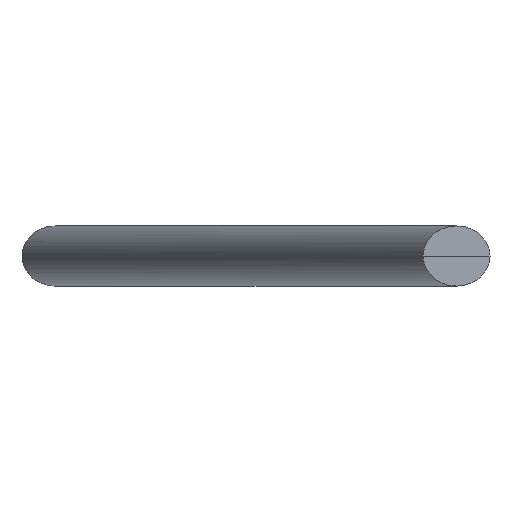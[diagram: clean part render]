
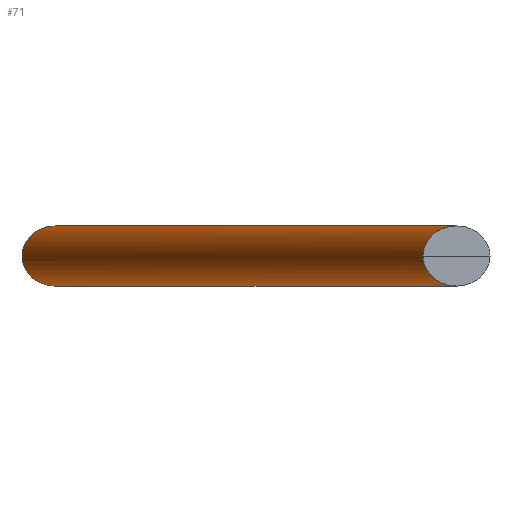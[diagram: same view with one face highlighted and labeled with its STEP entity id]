
A CAD part, front view. The second image highlights one B-rep face of the part: STEP entity #71.
In plain terms, the highlighted cylindrical face has radius 15 mm (diameter 30 mm), a full revolution.
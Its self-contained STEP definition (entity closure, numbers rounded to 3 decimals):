
#14=FACE_BOUND('',#26,.T.);
#15=CYLINDRICAL_SURFACE('',#94,15.);
#20=FACE_OUTER_BOUND('',#25,.T.);
#25=EDGE_LOOP('',(#53,#54));
#26=EDGE_LOOP('',(#55,#56));
#27=ELLIPSE('',#87,16.689,15.);
#28=ELLIPSE('',#89,16.689,15.);
#29=ELLIPSE('',#91,16.689,15.);
#30=ELLIPSE('',#93,16.689,15.);
#35=VERTEX_POINT('',#119);
#36=VERTEX_POINT('',#120);
#37=VERTEX_POINT('',#124);
#38=VERTEX_POINT('',#125);
#40=EDGE_CURVE('',#36,#35,#27,.T.);
#42=EDGE_CURVE('',#38,#37,#28,.T.);
#43=EDGE_CURVE('',#35,#36,#29,.T.);
#44=EDGE_CURVE('',#37,#38,#30,.T.);
#53=ORIENTED_EDGE('',*,*,#43,.T.);
#54=ORIENTED_EDGE('',*,*,#40,.T.);
#55=ORIENTED_EDGE('',*,*,#42,.T.);
#56=ORIENTED_EDGE('',*,*,#44,.T.);
#71=ADVANCED_FACE('',(#20,#14),#15,.T.);
#87=AXIS2_PLACEMENT_3D('',#122,#100,#101);
#89=AXIS2_PLACEMENT_3D('',#127,#105,#106);
#91=AXIS2_PLACEMENT_3D('',#129,#109,#110);
#93=AXIS2_PLACEMENT_3D('',#131,#113,#114);
#94=AXIS2_PLACEMENT_3D('',#132,#115,#116);
#100=DIRECTION('center_axis',(0.,1.,0.));
#101=DIRECTION('ref_axis',(-1.,0.,0.));
#105=DIRECTION('center_axis',(0.,-1.,0.));
#106=DIRECTION('ref_axis',(-1.,0.,0.));
#109=DIRECTION('center_axis',(0.,1.,0.));
#110=DIRECTION('ref_axis',(-1.,0.,0.));
#113=DIRECTION('center_axis',(0.,-1.,0.));
#114=DIRECTION('ref_axis',(-1.,0.,0.));
#115=DIRECTION('center_axis',(-0.438,0.899,0.));
#116=DIRECTION('ref_axis',(-0.899,-0.438,0.));
#119=CARTESIAN_POINT('',(380.303,30.,-470.));
#120=CARTESIAN_POINT('',(346.925,30.,-470.));
#122=CARTESIAN_POINT('Origin',(363.614,30.,-470.));
#124=CARTESIAN_POINT('',(180.333,440.,-470.));
#125=CARTESIAN_POINT('',(146.955,440.,-470.));
#127=CARTESIAN_POINT('Origin',(163.644,440.,-470.));
#129=CARTESIAN_POINT('Origin',(363.614,30.,-470.));
#131=CARTESIAN_POINT('Origin',(163.644,440.,-470.));
#132=CARTESIAN_POINT('Origin',(263.629,235.,-470.));
